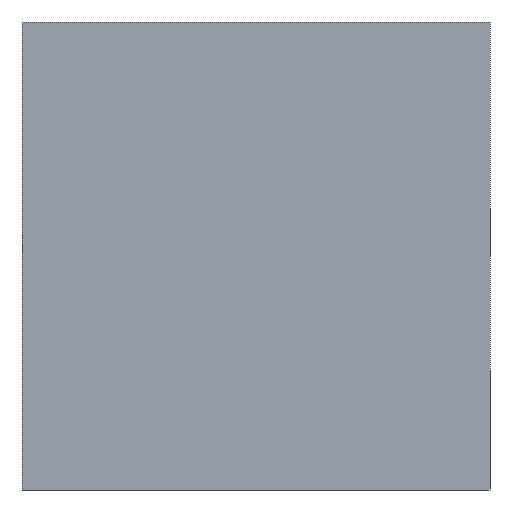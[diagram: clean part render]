
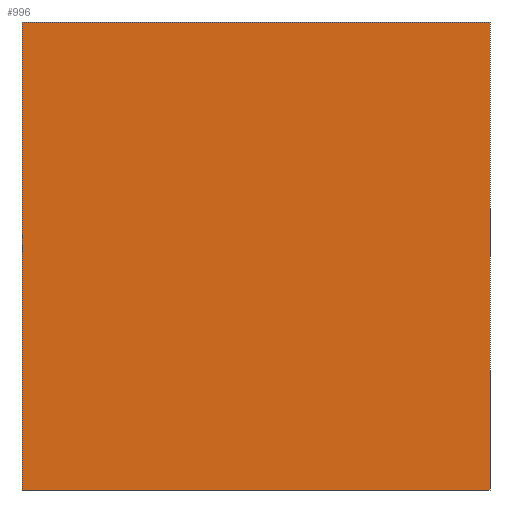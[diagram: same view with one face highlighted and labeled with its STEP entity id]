
A CAD part, front view. The second image highlights one B-rep face of the part: STEP entity #996.
In plain terms, the highlighted planar face has unit normal (0, -1, 0).
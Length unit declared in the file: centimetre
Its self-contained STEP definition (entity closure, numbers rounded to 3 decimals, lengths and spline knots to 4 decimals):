
#1 = VECTOR ( 'NONE', #815, 100. ) ;
#30 = EDGE_CURVE ( 'NONE', #476, #1025, #961, .T. ) ;
#61 = ORIENTED_EDGE ( 'NONE', *, *, #30, .T. ) ;
#69 = CARTESIAN_POINT ( 'NONE',  ( 0., 0., 0. ) ) ;
#72 = PLANE ( 'NONE',  #763 ) ;
#122 = CARTESIAN_POINT ( 'NONE',  ( 1000., 0., 0. ) ) ;
#159 = VECTOR ( 'NONE', #514, 100. ) ;
#217 = DIRECTION ( 'NONE',  ( 0., 1., 0. ) ) ;
#221 = DIRECTION ( 'NONE',  ( 1., 0., 0. ) ) ;
#223 = VERTEX_POINT ( 'NONE', #122 ) ;
#245 = VERTEX_POINT ( 'NONE', #279 ) ;
#275 = CARTESIAN_POINT ( 'NONE',  ( 0., 0., 1000. ) ) ;
#279 = CARTESIAN_POINT ( 'NONE',  ( 1000., 0., 1000. ) ) ;
#334 = ORIENTED_EDGE ( 'NONE', *, *, #573, .T. ) ;
#339 = ORIENTED_EDGE ( 'NONE', *, *, #1079, .F. ) ;
#476 = VERTEX_POINT ( 'NONE', #889 ) ;
#490 = FACE_OUTER_BOUND ( 'NONE', #553, .T. ) ;
#514 = DIRECTION ( 'NONE',  ( 0., 0., -1. ) ) ;
#553 = EDGE_LOOP ( 'NONE', ( #334, #339, #661, #61 ) ) ;
#571 = LINE ( 'NONE', #905, #159 ) ;
#573 = EDGE_CURVE ( 'NONE', #1025, #223, #735, .T. ) ;
#583 = VECTOR ( 'NONE', #710, 100. ) ;
#586 = VECTOR ( 'NONE', #221, 100. ) ;
#632 = CARTESIAN_POINT ( 'NONE',  ( 0., 0., 1000. ) ) ;
#643 = CARTESIAN_POINT ( 'NONE',  ( 0., 0., 0. ) ) ;
#659 = DIRECTION ( 'NONE',  ( 0., 0., 1. ) ) ;
#661 = ORIENTED_EDGE ( 'NONE', *, *, #847, .F. ) ;
#710 = DIRECTION ( 'NONE',  ( 1., 0., 0. ) ) ;
#735 = LINE ( 'NONE', #643, #586 ) ;
#763 = AXIS2_PLACEMENT_3D ( 'NONE', #1068, #217, #659 ) ;
#815 = DIRECTION ( 'NONE',  ( 0., 0., -1. ) ) ;
#847 = EDGE_CURVE ( 'NONE', #476, #245, #851, .T. ) ;
#851 = LINE ( 'NONE', #275, #583 ) ;
#889 = CARTESIAN_POINT ( 'NONE',  ( 0., 0., 1000. ) ) ;
#905 = CARTESIAN_POINT ( 'NONE',  ( 1000., 0., 1000. ) ) ;
#961 = LINE ( 'NONE', #632, #1 ) ;
#996 = ADVANCED_FACE ( 'NONE', ( #490 ), #72, .F. ) ;
#1025 = VERTEX_POINT ( 'NONE', #69 ) ;
#1068 = CARTESIAN_POINT ( 'NONE',  ( 0., 0., 1000. ) ) ;
#1079 = EDGE_CURVE ( 'NONE', #245, #223, #571, .T. ) ;
